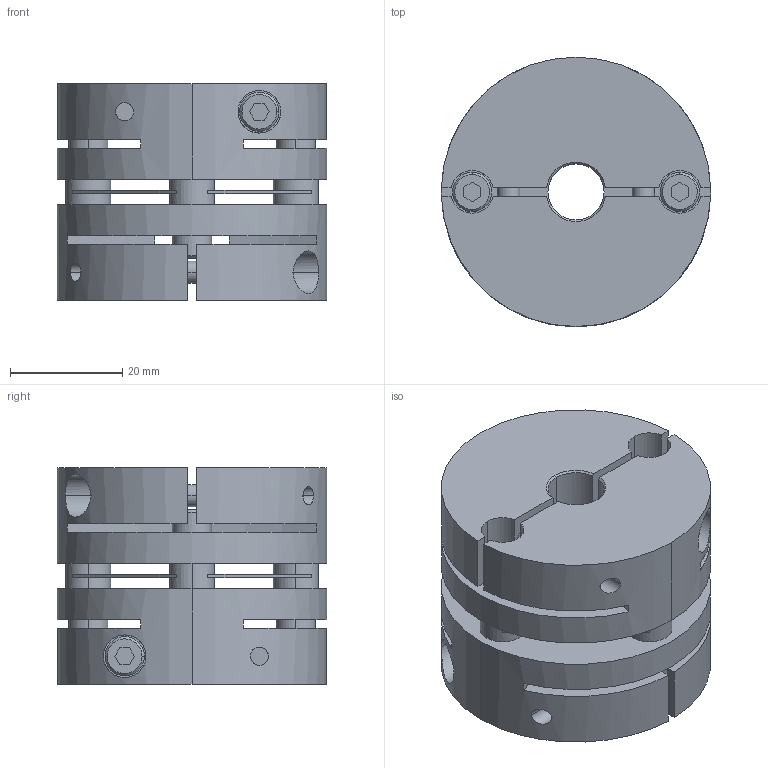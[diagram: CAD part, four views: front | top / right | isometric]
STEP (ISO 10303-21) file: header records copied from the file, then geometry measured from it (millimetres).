
FILE_DESCRIPTION((''),'2;1');
FILE_NAME('LAS-48C-10×16.stp','2015-10-14T15:36:21',(''),(''),'AutoCAD STEP 2000i','AutoCAD 2000i',', , ');
FILE_SCHEMA(('CONFIG_CONTROL_DESIGN'));
Length unit declared in the file: millimetre
Products named in the file (5): LAS-48C-12×12; 忣兜1; LA-4802-D12-1; LA-4802-D12; LAS48-ITA
Assembly tree (4 placements, depth 2):
  LAS-48C-12×12
    忣兜1
    LA-4802-D12-1
    LA-4802-D12
    LAS48-ITA
Bounding box: 48 x 48 x 38.6 mm (x, y, z)
Volume: 50917.6 mm3; surface area: 22618.5 mm2
Topology: 1 solids, 1 shells, 224 faces, 588 edges, 384 vertices
Faces by surface type: plane 112, cylinder 84, cone 28
Entity records: 7607 total; most frequent: CARTESIAN_POINT 1713, DIRECTION 1250, ORIENTED_EDGE 1176, EDGE_CURVE 588, AXIS2_PLACEMENT_3D 457, VERTEX_POINT 384, VECTOR 336, LINE 336
